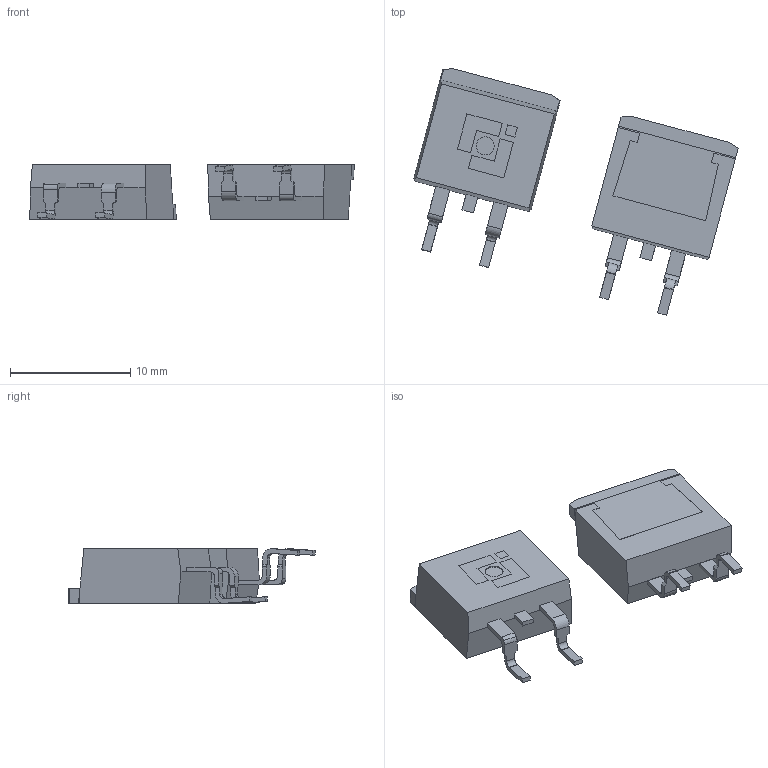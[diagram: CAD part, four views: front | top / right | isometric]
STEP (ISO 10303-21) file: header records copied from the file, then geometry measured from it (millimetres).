
FILE_DESCRIPTION (( 'STEP AP214' ), '1' );
FILE_NAME ('TO-263-2L-B.stp', '2026-06-08T02:55:46', ( '' ), ( '' ), 'SwSTEP 2.0', 'SolidWorks 2025', '' );
FILE_SCHEMA (( 'AUTOMOTIVE_DESIGN' ));
Length unit declared in the file: millimetre
Products named in the file (7): TO-263-2L_logo_A1.stp_1.stp; TO-263-2L-B1.stp_1.stp; TO-263-2L-B1.stp; TO-263-2L-B; Component1.stp_1.stp; TO-263-2L_logo_A1.stp2.stp; Component1.stp2.stp
Assembly tree (6 placements, depth 5):
  TO-263-2L-B
    TO-263-2L-B1.stp
      TO-263-2L-B1.stp_1.stp
        TO-263-2L_logo_A1.stp_1.stp
          Component1.stp_1.stp
        TO-263-2L_logo_A1.stp2.stp
          Component1.stp2.stp
Bounding box: 27.02 x 20.54 x 4.57 mm (x, y, z)
Volume: 806.4 mm3; surface area: 1040.3 mm2
Topology: 10 solids, 10 shells, 160 faces, 429 edges, 297 vertices
Faces by surface type: plane 130, cylinder 30
Entity records: 7078 total; most frequent: CARTESIAN_POINT 1004, ORIENTED_EDGE 858, DIRECTION 800, EDGE_CURVE 429, LINE 334, VECTOR 334, VERTEX_POINT 297, AXIS2_PLACEMENT_3D 233
